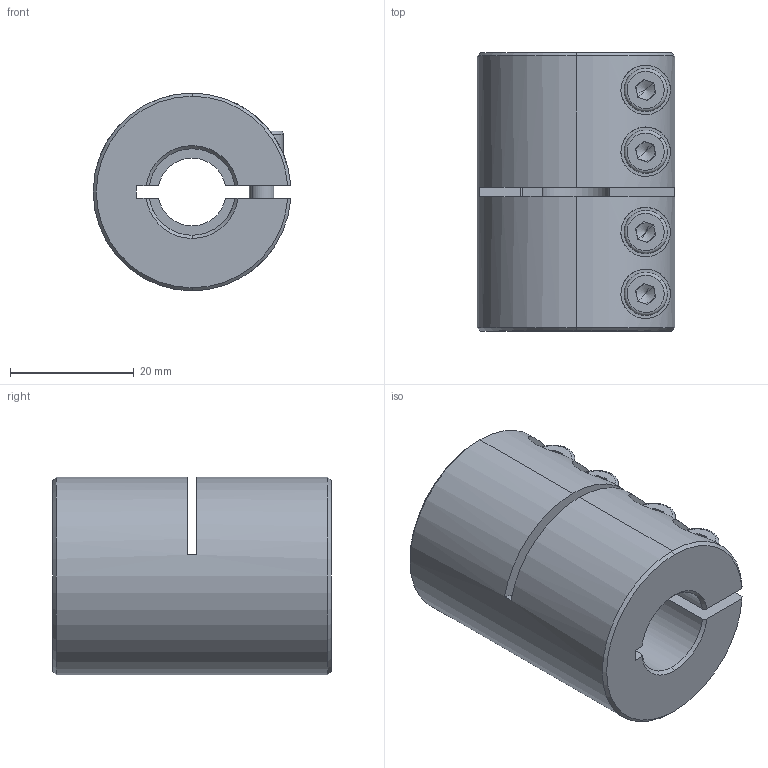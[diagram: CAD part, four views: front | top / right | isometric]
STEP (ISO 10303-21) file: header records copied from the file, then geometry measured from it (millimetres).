
FILE_DESCRIPTION (( 'STEP AP214' ), '1' );
FILE_NAME ('LL-B-D32L45-11-14½¨Ä£.STEP', '2022-07-21T07:10:07', ( '' ), ( '' ), 'SwSTEP 2.0', 'SolidWorks 2022', '' );
FILE_SCHEMA (( 'AUTOMOTIVE_DESIGN' ));
Length unit declared in the file: millimetre
Products named in the file (1): LL-B-D32L45-11-14膘耀
Bounding box: 31.97 x 45 x 32 mm (x, y, z)
Volume: 28367 mm3; surface area: 10816.7 mm2
Topology: 1 solids, 1 shells, 193 faces, 492 edges, 309 vertices
Faces by surface type: plane 88, cylinder 77, cone 20, torus 8
Entity records: 6357 total; most frequent: CARTESIAN_POINT 1583, DIRECTION 1037, ORIENTED_EDGE 968, EDGE_CURVE 484, AXIS2_PLACEMENT_3D 403, VERTEX_POINT 309, VECTOR 231, LINE 231
